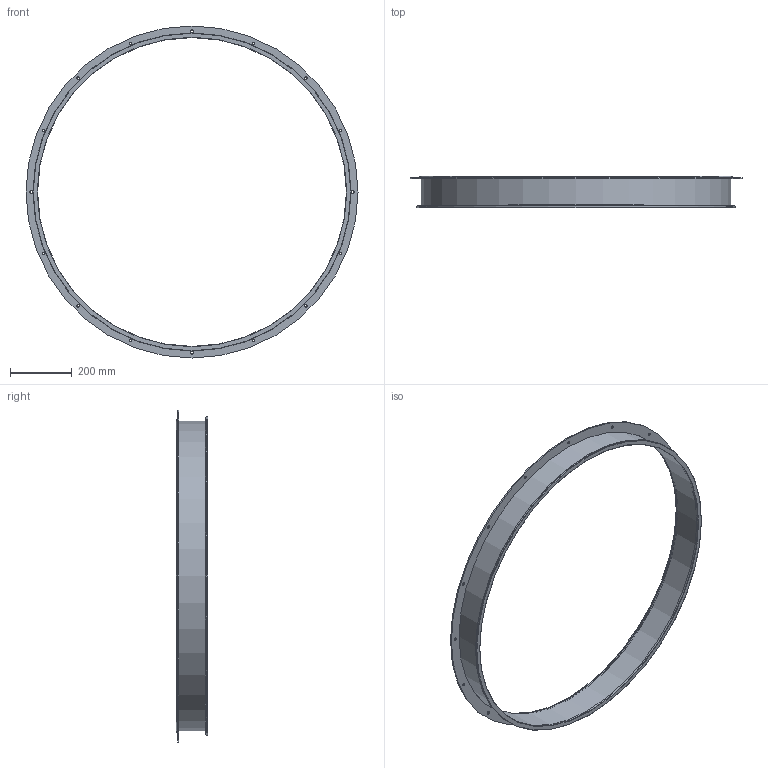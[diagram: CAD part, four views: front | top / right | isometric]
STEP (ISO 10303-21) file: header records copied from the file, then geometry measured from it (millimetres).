
FILE_DESCRIPTION(/* description */ (''),/* implementation_level */ '2;1');
FILE_NAME(/* name */ 'METU_EA117-41D_1000_L100.stp',/* time_stamp */ '2018-10-10T16:36:27+02:00',/* author */ (''),/* organization */ (''),/* preprocessor_version */ 'ST-DEVELOPER v11',/* originating_system */ 'SIEMENS UGS NX 6.0',/* authorisation */ '');
FILE_SCHEMA (('CONFIG_CONTROL_DESIGN'));
Length unit declared in the file: millimetre
Products named in the file (1): garsCF17deb8
Bounding box: 1075 x 101.5 x 1075 mm (x, y, z)
Volume: 1157422.3 mm3; surface area: 1102010.7 mm2
Topology: 3 solids, 3 shells, 40 faces, 109 edges, 78 vertices
Faces by surface type: cylinder 25, plane 9, torus 5, cone 1
Full cylindrical faces by diameter (mm): 9.5 x16, 1000 x2, 1002 x1, 1002.4 x1, 1005 x1, 1012 x1, 1012.4 x1, 1030 x1, 1075 x1
Entity records: 1122 total; most frequent: DIRECTION 194, CARTESIAN_POINT 153, FACE_BOUND 112, EDGE_LOOP 112, ORIENTED_EDGE 112, AXIS2_PLACEMENT_3D 97, VERTEX_POINT 56, EDGE_CURVE 56
